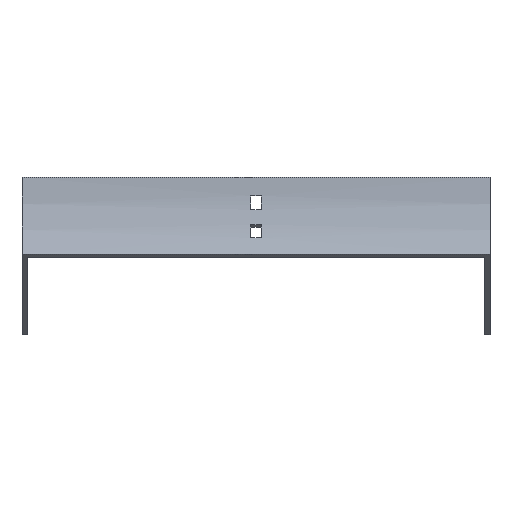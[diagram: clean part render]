
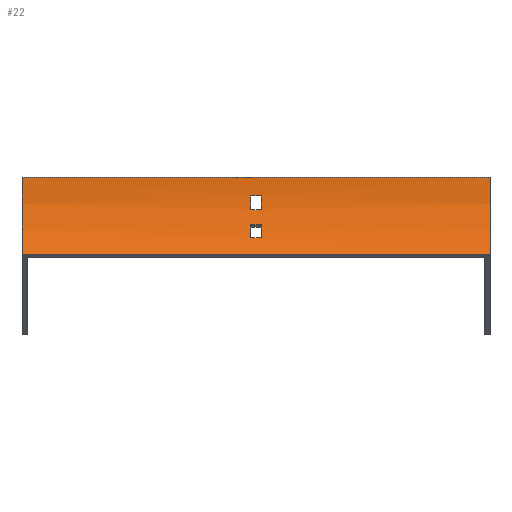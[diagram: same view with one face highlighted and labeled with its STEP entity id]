
A CAD part, front view. The second image highlights one B-rep face of the part: STEP entity #22.
In plain terms, the highlighted cylindrical face has radius 100 mm (diameter 200 mm), a partial arc.
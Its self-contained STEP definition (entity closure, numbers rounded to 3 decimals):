
#22 = ADVANCED_FACE ( 'NONE', ( #667, #402, #535 ), #116, .F. ) ;
#65 = CARTESIAN_POINT ( 'NONE',  ( 152., 0., 0. ) ) ;
#80 = CARTESIAN_POINT ( 'NONE',  ( 152., -8.023, -39.246 ) ) ;
#91 = DIRECTION ( 'NONE',  ( -1., 0., 0. ) ) ;
#96 = EDGE_CURVE ( 'NONE', #492, #842, #1119, .T. ) ;
#108 = CARTESIAN_POINT ( 'NONE',  ( 3.25, -100., 0. ) ) ;
#116 = CYLINDRICAL_SURFACE ( 'NONE', #190, 100. ) ;
#118 = VERTEX_POINT ( 'NONE', #482 ) ;
#141 = VECTOR ( 'NONE', #967, 1000. ) ;
#142 = CARTESIAN_POINT ( 'NONE',  ( -152., -13.397, -50. ) ) ;
#184 = CARTESIAN_POINT ( 'NONE',  ( 3.25, -2.23, -21. ) ) ;
#190 = AXIS2_PLACEMENT_3D ( 'NONE', #925, #1061, #1580 ) ;
#193 = CARTESIAN_POINT ( 'NONE',  ( 152., -100., 0. ) ) ;
#195 = CARTESIAN_POINT ( 'NONE',  ( -3.25, -0.723, -12. ) ) ;
#218 = CARTESIAN_POINT ( 'NONE',  ( -3.25, -2.23, -21. ) ) ;
#225 = LINE ( 'NONE', #65, #984 ) ;
#249 = EDGE_CURVE ( 'NONE', #555, #625, #1495, .T. ) ;
#284 = CARTESIAN_POINT ( 'NONE',  ( 3.25, -4.829, -30.699 ) ) ;
#288 = VERTEX_POINT ( 'NONE', #1586 ) ;
#299 = CIRCLE ( 'NONE', #1613, 100. ) ;
#308 = CARTESIAN_POINT ( 'NONE',  ( -152., -100., 0. ) ) ;
#318 = DIRECTION ( 'NONE',  ( -1., 0., 0. ) ) ;
#335 = VERTEX_POINT ( 'NONE', #284 ) ;
#347 = AXIS2_PLACEMENT_3D ( 'NONE', #505, #1645, #1032 ) ;
#402 = FACE_BOUND ( 'NONE', #605, .T. ) ;
#425 = CARTESIAN_POINT ( 'NONE',  ( 3.25, -100., 0. ) ) ;
#438 = VERTEX_POINT ( 'NONE', #184 ) ;
#442 = LINE ( 'NONE', #710, #141 ) ;
#482 = CARTESIAN_POINT ( 'NONE',  ( 3.25, -0.723, -12. ) ) ;
#492 = VERTEX_POINT ( 'NONE', #218 ) ;
#505 = CARTESIAN_POINT ( 'NONE',  ( -3.25, -100., 0. ) ) ;
#523 = VECTOR ( 'NONE', #1551, 1000. ) ;
#524 = VECTOR ( 'NONE', #751, 1000. ) ;
#530 = VERTEX_POINT ( 'NONE', #1535 ) ;
#535 = FACE_BOUND ( 'NONE', #1655, .T. ) ;
#552 = CIRCLE ( 'NONE', #960, 100. ) ;
#555 = VERTEX_POINT ( 'NONE', #726 ) ;
#583 = VERTEX_POINT ( 'NONE', #891 ) ;
#605 = EDGE_LOOP ( 'NONE', ( #1354, #1210, #1408, #938 ) ) ;
#606 = LINE ( 'NONE', #80, #1591 ) ;
#625 = VERTEX_POINT ( 'NONE', #142 ) ;
#667 = FACE_OUTER_BOUND ( 'NONE', #1303, .T. ) ;
#684 = VECTOR ( 'NONE', #1139, 1000. ) ;
#697 = CARTESIAN_POINT ( 'NONE',  ( 152., 0., 0. ) ) ;
#710 = CARTESIAN_POINT ( 'NONE',  ( 152., -2.23, -21. ) ) ;
#726 = CARTESIAN_POINT ( 'NONE',  ( 152., -13.397, -50. ) ) ;
#732 = EDGE_CURVE ( 'NONE', #530, #583, #1121, .T. ) ;
#741 = AXIS2_PLACEMENT_3D ( 'NONE', #425, #841, #1107 ) ;
#747 = VERTEX_POINT ( 'NONE', #697 ) ;
#749 = EDGE_CURVE ( 'NONE', #438, #492, #442, .T. ) ;
#751 = DIRECTION ( 'NONE',  ( 1., 0., 0. ) ) ;
#752 = ORIENTED_EDGE ( 'NONE', *, *, #965, .T. ) ;
#765 = ORIENTED_EDGE ( 'NONE', *, *, #791, .T. ) ;
#790 = DIRECTION ( 'NONE',  ( -1., 0., 0. ) ) ;
#791 = EDGE_CURVE ( 'NONE', #288, #625, #299, .T. ) ;
#841 = DIRECTION ( 'NONE',  ( 1., 0., 0. ) ) ;
#842 = VERTEX_POINT ( 'NONE', #195 ) ;
#854 = CARTESIAN_POINT ( 'NONE',  ( 152., -13.397, -50. ) ) ;
#891 = CARTESIAN_POINT ( 'NONE',  ( -3.25, -8.023, -39.246 ) ) ;
#898 = CARTESIAN_POINT ( 'NONE',  ( -3.25, -100., 0. ) ) ;
#925 = CARTESIAN_POINT ( 'NONE',  ( 152., -100., 0. ) ) ;
#938 = ORIENTED_EDGE ( 'NONE', *, *, #1110, .T. ) ;
#960 = AXIS2_PLACEMENT_3D ( 'NONE', #193, #1391, #1666 ) ;
#965 = EDGE_CURVE ( 'NONE', #747, #288, #225, .T. ) ;
#967 = DIRECTION ( 'NONE',  ( -1., 0., 0. ) ) ;
#972 = DIRECTION ( 'NONE',  ( 0., 0., -1. ) ) ;
#984 = VECTOR ( 'NONE', #91, 1000. ) ;
#1032 = DIRECTION ( 'NONE',  ( 0., 0., 1. ) ) ;
#1061 = DIRECTION ( 'NONE',  ( -1., 0., 0. ) ) ;
#1070 = EDGE_CURVE ( 'NONE', #335, #530, #1695, .T. ) ;
#1073 = ORIENTED_EDGE ( 'NONE', *, *, #732, .F. ) ;
#1097 = ORIENTED_EDGE ( 'NONE', *, *, #1670, .F. ) ;
#1107 = DIRECTION ( 'NONE',  ( 0., 0., 1. ) ) ;
#1110 = EDGE_CURVE ( 'NONE', #118, #438, #1455, .T. ) ;
#1119 = CIRCLE ( 'NONE', #347, 100. ) ;
#1121 = CIRCLE ( 'NONE', #1369, 100. ) ;
#1139 = DIRECTION ( 'NONE',  ( -1., 0., 0. ) ) ;
#1167 = DIRECTION ( 'NONE',  ( 0., 0., -1. ) ) ;
#1210 = ORIENTED_EDGE ( 'NONE', *, *, #96, .T. ) ;
#1217 = ORIENTED_EDGE ( 'NONE', *, *, #1377, .F. ) ;
#1230 = CARTESIAN_POINT ( 'NONE',  ( 3.25, -8.023, -39.246 ) ) ;
#1262 = CIRCLE ( 'NONE', #741, 100. ) ;
#1266 = CARTESIAN_POINT ( 'NONE',  ( 152., -0.723, -12. ) ) ;
#1303 = EDGE_LOOP ( 'NONE', ( #765, #1462, #1217, #752 ) ) ;
#1351 = DIRECTION ( 'NONE',  ( 0., 0., 1. ) ) ;
#1353 = EDGE_CURVE ( 'NONE', #583, #1608, #606, .T. ) ;
#1354 = ORIENTED_EDGE ( 'NONE', *, *, #749, .T. ) ;
#1369 = AXIS2_PLACEMENT_3D ( 'NONE', #898, #1690, #972 ) ;
#1377 = EDGE_CURVE ( 'NONE', #747, #555, #552, .T. ) ;
#1391 = DIRECTION ( 'NONE',  ( -1., 0., 0. ) ) ;
#1404 = LINE ( 'NONE', #1266, #524 ) ;
#1408 = ORIENTED_EDGE ( 'NONE', *, *, #1423, .T. ) ;
#1423 = EDGE_CURVE ( 'NONE', #842, #118, #1404, .T. ) ;
#1455 = CIRCLE ( 'NONE', #1482, 100. ) ;
#1462 = ORIENTED_EDGE ( 'NONE', *, *, #249, .F. ) ;
#1482 = AXIS2_PLACEMENT_3D ( 'NONE', #108, #790, #1167 ) ;
#1495 = LINE ( 'NONE', #854, #684 ) ;
#1516 = ORIENTED_EDGE ( 'NONE', *, *, #1353, .F. ) ;
#1535 = CARTESIAN_POINT ( 'NONE',  ( -3.25, -4.829, -30.699 ) ) ;
#1551 = DIRECTION ( 'NONE',  ( -1., 0., 0. ) ) ;
#1570 = CARTESIAN_POINT ( 'NONE',  ( 152., -4.829, -30.699 ) ) ;
#1580 = DIRECTION ( 'NONE',  ( 0., 0., 1. ) ) ;
#1586 = CARTESIAN_POINT ( 'NONE',  ( -152., 0., 0. ) ) ;
#1591 = VECTOR ( 'NONE', #1630, 1000. ) ;
#1608 = VERTEX_POINT ( 'NONE', #1230 ) ;
#1613 = AXIS2_PLACEMENT_3D ( 'NONE', #308, #318, #1351 ) ;
#1630 = DIRECTION ( 'NONE',  ( 1., 0., 0. ) ) ;
#1645 = DIRECTION ( 'NONE',  ( 1., 0., 0. ) ) ;
#1655 = EDGE_LOOP ( 'NONE', ( #1073, #1693, #1097, #1516 ) ) ;
#1666 = DIRECTION ( 'NONE',  ( 0., 0., 1. ) ) ;
#1670 = EDGE_CURVE ( 'NONE', #1608, #335, #1262, .T. ) ;
#1690 = DIRECTION ( 'NONE',  ( -1., 0., 0. ) ) ;
#1693 = ORIENTED_EDGE ( 'NONE', *, *, #1070, .F. ) ;
#1695 = LINE ( 'NONE', #1570, #523 ) ;
